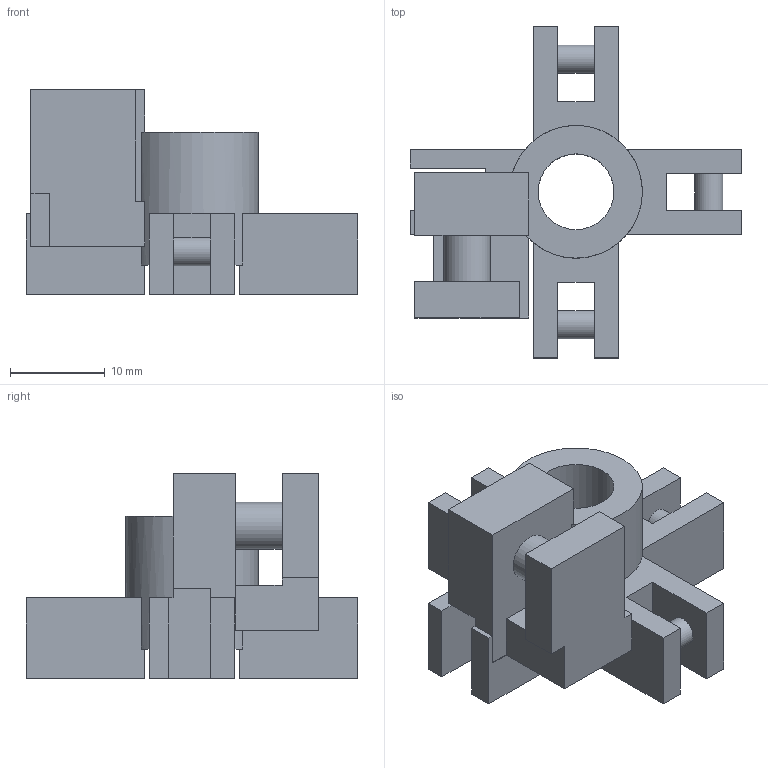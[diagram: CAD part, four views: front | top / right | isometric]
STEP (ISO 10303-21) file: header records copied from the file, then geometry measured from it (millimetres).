
FILE_DESCRIPTION(('Open CASCADE Model'),'2;1');
FILE_NAME('Open CASCADE Shape Model','2026-10-17T22:15:36',('Author'),( 'Open CASCADE'),'Open CASCADE STEP processor 7.9','Open CASCADE 7.9' ,'Unknown');
FILE_SCHEMA(('AUTOMOTIVE_DESIGN { 1 0 10303 214 1 1 1 1 }'));
Length unit declared in the file: millimetre
Products named in the file (1): Open CASCADE STEP translator 7.9 18
Bounding box: 35 x 35 x 21.6 mm (x, y, z)
Volume: 5884.8 mm3; surface area: 4429.8 mm2
Topology: 1 solids, 1 shells, 65 faces, 189 edges, 126 vertices
Faces by surface type: plane 59, cylinder 6
Full cylindrical faces by diameter (mm): 3 x3, 4.96 x1, 8 x1
Entity records: 4574 total; most frequent: CARTESIAN_POINT 940, DIRECTION 619, LINE 440, VECTOR 440, ORIENTED_EDGE 378, PCURVE 378, DEFINITIONAL_REPRESENTATION 378, EDGE_CURVE 189
